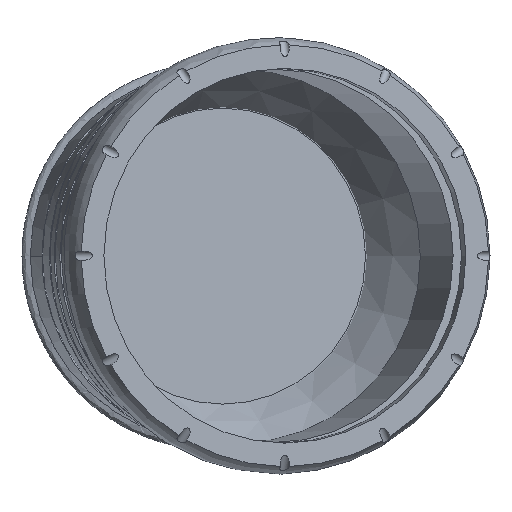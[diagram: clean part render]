
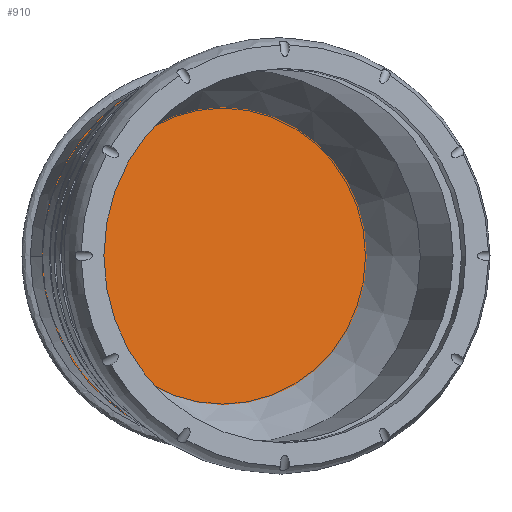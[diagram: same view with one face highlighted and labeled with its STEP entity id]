
A CAD part, top view. The second image highlights one B-rep face of the part: STEP entity #910.
In plain terms, the highlighted planar face has unit normal (0.259, 0, 0.966).
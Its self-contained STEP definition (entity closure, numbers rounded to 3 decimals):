
#78=PLANE('',#975);
#89=FACE_OUTER_BOUND('',#142,.T.);
#142=EDGE_LOOP('',(#589,#590,#591,#592,#593,#594,#595));
#260=ELLIPSE('',#967,81.,80.3);
#261=ELLIPSE('',#969,81.,80.3);
#262=ELLIPSE('',#972,81.,80.3);
#263=ELLIPSE('',#976,82.952,80.125);
#264=ELLIPSE('',#977,82.952,80.125);
#285=B_SPLINE_CURVE_WITH_KNOTS('',3,(#1488,#1489,#1490,#1491,#1492,#1493,
#1494,#1495),.UNSPECIFIED.,.F.,.F.,(4,2,2,4),(-0.101,-0.087,
-0.053,0.),.UNSPECIFIED.);
#286=B_SPLINE_CURVE_WITH_KNOTS('',3,(#1497,#1498,#1499,#1500,#1501,#1502,
#1503,#1504),.UNSPECIFIED.,.F.,.F.,(4,2,2,4),(-8.365,-8.261,
-8.174,-8.106),.UNSPECIFIED.);
#349=VERTEX_POINT('',#1290);
#350=VERTEX_POINT('',#1299);
#352=VERTEX_POINT('',#1348);
#354=VERTEX_POINT('',#1378);
#357=VERTEX_POINT('',#1457);
#361=VERTEX_POINT('',#1487);
#362=VERTEX_POINT('',#1496);
#445=EDGE_CURVE('',#349,#350,#260,.T.);
#449=EDGE_CURVE('',#352,#354,#261,.T.);
#456=EDGE_CURVE('',#350,#357,#262,.T.);
#458=EDGE_CURVE('',#357,#361,#285,.T.);
#459=EDGE_CURVE('',#362,#349,#286,.T.);
#460=EDGE_CURVE('',#354,#362,#263,.T.);
#461=EDGE_CURVE('',#361,#352,#264,.T.);
#589=ORIENTED_EDGE('',*,*,#458,.F.);
#590=ORIENTED_EDGE('',*,*,#456,.F.);
#591=ORIENTED_EDGE('',*,*,#445,.F.);
#592=ORIENTED_EDGE('',*,*,#459,.F.);
#593=ORIENTED_EDGE('',*,*,#460,.F.);
#594=ORIENTED_EDGE('',*,*,#449,.F.);
#595=ORIENTED_EDGE('',*,*,#461,.F.);
#910=ADVANCED_FACE('',(#89),#78,.F.);
#967=AXIS2_PLACEMENT_3D('',#1300,#1059,#1060);
#969=AXIS2_PLACEMENT_3D('',#1379,#1064,#1065);
#972=AXIS2_PLACEMENT_3D('',#1482,#1070,#1071);
#975=AXIS2_PLACEMENT_3D('',#1486,#1076,#1077);
#976=AXIS2_PLACEMENT_3D('',#1505,#1078,#1079);
#977=AXIS2_PLACEMENT_3D('',#1506,#1080,#1081);
#1059=DIRECTION('center_axis',(-0.259,0.,
-0.966));
#1060=DIRECTION('ref_axis',(0.,-1.,0.));
#1064=DIRECTION('center_axis',(-0.259,0.,
-0.966));
#1065=DIRECTION('ref_axis',(0.,-1.,0.));
#1070=DIRECTION('center_axis',(-0.259,0.,
-0.966));
#1071=DIRECTION('ref_axis',(0.,-1.,0.));
#1076=DIRECTION('center_axis',(-0.259,0.,
-0.966));
#1077=DIRECTION('ref_axis',(-0.966,0.,0.259));
#1078=DIRECTION('center_axis',(-0.259,0.,
-0.966));
#1079=DIRECTION('ref_axis',(0.966,0.,-0.259));
#1080=DIRECTION('center_axis',(-0.259,0.,
-0.966));
#1081=DIRECTION('ref_axis',(0.966,0.,-0.259));
#1290=CARTESIAN_POINT('',(58.076,-56.471,87.508));
#1299=CARTESIAN_POINT('',(-75.094,0.,123.191));
#1300=CARTESIAN_POINT('Origin',(2.47,0.,102.408));
#1348=CARTESIAN_POINT('',(78.397,16.552,82.063));
#1378=CARTESIAN_POINT('',(78.397,-16.552,82.063));
#1379=CARTESIAN_POINT('Origin',(2.47,0.,102.408));
#1457=CARTESIAN_POINT('',(58.076,56.471,87.508));
#1482=CARTESIAN_POINT('Origin',(2.47,0.,102.408));
#1486=CARTESIAN_POINT('Origin',(2.47,0.,102.408));
#1487=CARTESIAN_POINT('',(57.733,55.56,87.6));
#1488=CARTESIAN_POINT('Ctrl Pts',(58.076,56.471,87.508));
#1489=CARTESIAN_POINT('Ctrl Pts',(58.041,56.443,87.517));
#1490=CARTESIAN_POINT('Ctrl Pts',(58.009,56.413,87.526));
#1491=CARTESIAN_POINT('Ctrl Pts',(57.904,56.296,87.554));
#1492=CARTESIAN_POINT('Ctrl Pts',(57.85,56.197,87.569));
#1493=CARTESIAN_POINT('Ctrl Pts',(57.753,55.923,87.595));
#1494=CARTESIAN_POINT('Ctrl Pts',(57.733,55.738,87.6));
#1495=CARTESIAN_POINT('Ctrl Pts',(57.733,55.56,87.6));
#1496=CARTESIAN_POINT('',(57.733,-55.56,87.6));
#1497=CARTESIAN_POINT('Ctrl Pts',(57.733,-55.56,87.6));
#1498=CARTESIAN_POINT('Ctrl Pts',(57.733,-55.696,87.6));
#1499=CARTESIAN_POINT('Ctrl Pts',(57.744,-55.835,87.597));
#1500=CARTESIAN_POINT('Ctrl Pts',(57.802,-56.078,87.581));
#1501=CARTESIAN_POINT('Ctrl Pts',(57.843,-56.185,87.571));
#1502=CARTESIAN_POINT('Ctrl Pts',(57.951,-56.354,87.542));
#1503=CARTESIAN_POINT('Ctrl Pts',(58.008,-56.418,87.526));
#1504=CARTESIAN_POINT('Ctrl Pts',(58.076,-56.471,87.508));
#1505=CARTESIAN_POINT('Origin',(0.,0.,103.069));
#1506=CARTESIAN_POINT('Origin',(0.,0.,103.069));
